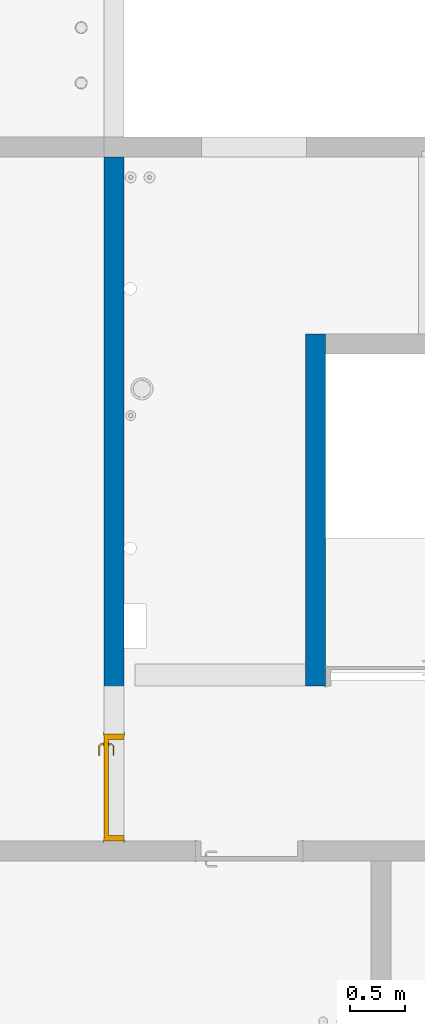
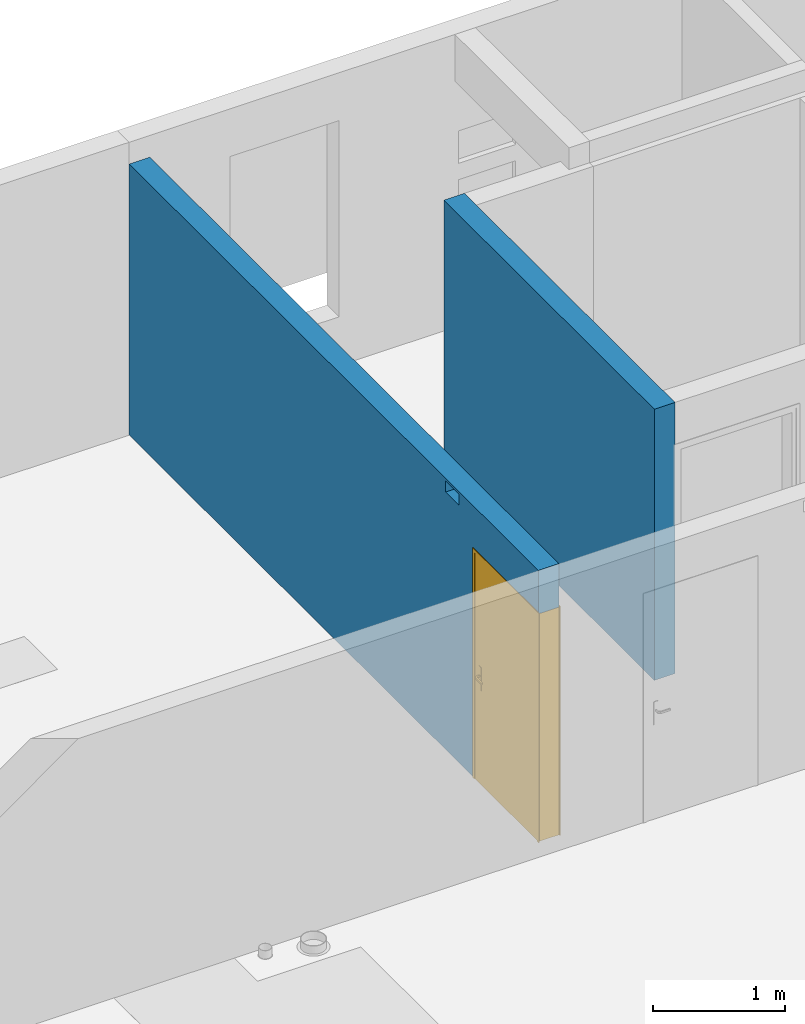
# One storey, part 10 of 28: 2 walls, 1 door, 3 openings.
"""IFC2X3 building model written with IfcOpenShell, lengths in centimetres."""

from ifc_helpers import new_model, entity, si_unit, converted_unit, derived_unit, direction, frame, frame_2d, origin, place, context, subcontext, project, spatial, rectangle, extrude, faceted_brep, source, transform, mapped, material, material_list, layer, layer_set, layer_usage, type_object, type_shapes, element, fill, save


model = new_model("IFC2X3")

# Units and contexts
model_context = context("Model", 3, precision=0.001, world=origin(), true_north=direction((6.12303176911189e-17, 1.0)))
body_context = subcontext(model_context, "Body", "Model", "MODEL_VIEW")
ifc_project = project(units=[si_unit("LENGTHUNIT", "METRE", prefix="CENTI"), si_unit("AREAUNIT", "SQUARE_METRE"), si_unit("VOLUMEUNIT", "CUBIC_METRE"), converted_unit("PLANEANGLEUNIT", "DEGREE", entity("IfcRatioMeasure", 0.0174532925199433), si_unit("PLANEANGLEUNIT", "RADIAN"), dimensions=[0, 0, 0, 0, 0, 0, 0]), si_unit("MASSUNIT", "GRAM", prefix="KILO"), derived_unit("MASSDENSITYUNIT", [(si_unit("MASSUNIT", "GRAM", prefix="KILO"), 1), (si_unit("LENGTHUNIT", "METRE"), -3)]), si_unit("TIMEUNIT", "SECOND"), si_unit("FREQUENCYUNIT", "HERTZ"), si_unit("THERMODYNAMICTEMPERATUREUNIT", "DEGREE_CELSIUS"), derived_unit("THERMALTRANSMITTANCEUNIT", [(si_unit("MASSUNIT", "GRAM", prefix="KILO"), 1), (si_unit("THERMODYNAMICTEMPERATUREUNIT", "KELVIN"), -1), (si_unit("TIMEUNIT", "SECOND"), -3)]), derived_unit("VOLUMETRICFLOWRATEUNIT", [(si_unit("LENGTHUNIT", "METRE"), 3), (si_unit("TIMEUNIT", "SECOND"), -1)]), si_unit("ELECTRICCURRENTUNIT", "AMPERE"), si_unit("ELECTRICVOLTAGEUNIT", "VOLT"), si_unit("POWERUNIT", "WATT"), si_unit("FORCEUNIT", "NEWTON"), si_unit("ILLUMINANCEUNIT", "LUX"), si_unit("LUMINOUSFLUXUNIT", "LUMEN"), si_unit("LUMINOUSINTENSITYUNIT", "CANDELA"), derived_unit("USERDEFINED", [(si_unit("MASSUNIT", "GRAM", prefix="KILO"), -1), (si_unit("LENGTHUNIT", "METRE"), -2), (si_unit("TIMEUNIT", "SECOND"), 3), (si_unit("LUMINOUSFLUXUNIT", "LUMEN"), 1)]), derived_unit("LINEARVELOCITYUNIT", [(si_unit("LENGTHUNIT", "METRE"), 1), (si_unit("TIMEUNIT", "SECOND"), -1)]), si_unit("PRESSUREUNIT", "PASCAL"), derived_unit("USERDEFINED", [(si_unit("LENGTHUNIT", "METRE"), -2), (si_unit("MASSUNIT", "GRAM", prefix="KILO"), 1), (si_unit("TIMEUNIT", "SECOND"), -2)])], contexts=[model_context])

# Site, building, storey
site_placement = place(None, origin())
site = spatial("IfcSite", under=ifc_project, at=site_placement, Name="Default", CompositionType="ELEMENT")
building_placement = place(site_placement, origin())
building = spatial("IfcBuilding", under=site, at=building_placement, Name="CAGE 03", CompositionType="ELEMENT")
storey_placement = place(building_placement, frame((0.0, 0.0, 1420.0)))
storey = spatial("IfcBuildingStorey", under=building, at=storey_placement, Name="R+5", CompositionType="ELEMENT", Elevation=1420.0)

# Wall, openings, door
ifc_material_1 = material(Name="Béton, C25/30")
ifc_layer_1 = layer(ifc_material_1, 18.0)
ifc_layer_set_1 = layer_set([ifc_layer_1], Name="Mur de base:Voile BA 18")
ifc_layer_usage_1 = layer_usage(ifc_layer_set_1, "AXIS2", "NEGATIVE", 9.0)
wall_type_1 = type_object("IfcWallType", Name="Mur de base:Voile BA 18", PredefinedType="STANDARD", material=ifc_layer_set_1)
wall_1_placement = place(storey_placement, frame((6840.36582014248, 5110.6606660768, 0.0), z_axis=(0.0, 0.0, 1.0), x_axis=(0.0, -1.0, 0.0)))
wall_1 = element("IfcWallStandardCase", 1, at=wall_1_placement, inside=storey, type_object=wall_type_1, material=ifc_layer_usage_1, Name="Mur de base:Voile BA 18", ObjectType="Mur de base:Voile BA 18", context=body_context, shape_type="SweptSolid", body=[
    extrude(rectangle(XDim=618.000000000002, YDim=17.9999999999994, at=frame_2d((309.000000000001, 8.97060203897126e-14), x_axis=(-1.0, 0.0))), origin(), (0.0, 0.0, 1.0), 250.0),
])
opening_1_placement = place(wall_1_placement, origin())
element("IfcOpeningElement", 2, at=opening_1_placement, cuts=wall_1, Name="Mur de base:Voile BA 18", ObjectType="Opening", context=body_context, shape_type="SweptSolid", body=[
    extrude(rectangle(XDim=10.0000000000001, YDim=19.9999999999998, at=frame_2d((1.08357767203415e-13, 4.33431068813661e-13), x_axis=(1.0, 0.0))), frame((488.0, -9.0, 242.500000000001), z_axis=(0.0, 1.0, 0.0), x_axis=(0.0, 0.0, -1.0)), (0.0, 0.0, 1.0), 17.9999999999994),
])
opening_2_placement = place(wall_1_placement, frame((618.0, 9.0, 0.0)))
opening_2 = element("IfcOpeningElement", 3, at=opening_2_placement, cuts=wall_1, Name="Int. Simple:HB93:1", ObjectType="Opening", context=body_context, shape_type="SweptSolid", body=[
    extrude(rectangle(XDim=210.000000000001, YDim=96.9999999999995, at=frame_2d((105.000000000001, 48.4999999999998), x_axis=(1.0, 0.0))), frame((0.0, 0.0, 0.0), z_axis=(0.0, -1.0, 0.0), x_axis=(0.0, 0.0, 1.0)), (0.0, 0.0, 1.0), 18.0),
])
ifc_material_2 = material(Name="Finition Peinture - Blanc satiné")
ifc_material_3 = material(Name="Bois - Panneau de porte")
ifc_material_4 = material(Name="Bois - Cadre de porte")
ifc_material_list_1 = material_list([ifc_material_2, ifc_material_3, ifc_material_4])
ifc_material_list_2 = material_list([ifc_material_2, ifc_material_3, ifc_material_4])
door_style = type_object("IfcDoorStyle", Name="HB93", ConstructionType="NOTDEFINED", OperationType="SINGLE_SWING_LEFT", ParameterTakesPrecedence=False, Sizeable=False, material=ifc_material_list_2)
shared_shape = source(origin(), body_context, "Body", "Brep", [
    faceted_brep([(10.5352761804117, -0.500000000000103, 86.6003983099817), (11.5000000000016, -0.500000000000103, 87.0), (11.5000000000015, -0.500000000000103, 108.0), (10.5352761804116, -0.500000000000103, 108.399601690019), (9.50000000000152, -0.500000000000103, 108.535898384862), (8.46472381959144, -0.500000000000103, 108.399601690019), (7.50000000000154, -0.500000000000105, 108.0), (7.50000000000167, -0.500000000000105, 87.0), (8.46472381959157, -0.500000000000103, 86.6003983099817), (9.50000000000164, -0.500000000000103, 86.464101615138), (10.5352761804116, 0.0, 108.399601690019), (11.5000000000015, 0.0, 108.0), (11.5000000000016, 0.0, 87.0), (10.5352761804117, 0.0, 86.6003983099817), (9.50000000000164, 0.0, 86.464101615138), (8.46472381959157, 0.0, 86.6003983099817), (7.50000000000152, 0.0, 87.0), (7.50000000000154, 0.0, 108.0), (8.46472381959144, 0.0, 108.399601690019), (9.50000000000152, 0.0, 108.535898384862)], [[[0, 1, 2, 3, 4, 5, 6, 7, 8, 9]], [[10, 11, 12, 13, 14, 15, 16, 17, 18, 19]], [[16, 15, 8, 7]], [[8, 15, 14, 9]], [[14, 13, 0, 9]], [[13, 12, 1, 0]], [[2, 1, 12, 11]], [[11, 10, 3, 2]], [[3, 10, 19, 4]], [[19, 18, 5, 4]], [[18, 17, 6, 5]], [[7, 6, 17, 16]]]),
    faceted_brep([(10.5352761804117, 4.0, 86.6003983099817), (11.5000000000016, 4.0, 87.0), (11.5000000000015, 4.0, 108.0), (10.5352761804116, 4.0, 108.399601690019), (9.50000000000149, 4.0, 108.535898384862), (8.46472381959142, 4.0, 108.399601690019), (7.50000000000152, 4.0, 108.0), (7.50000000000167, 4.0, 87.0), (8.46472381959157, 4.0, 86.6003983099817), (9.50000000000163, 4.0, 86.464101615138), (10.5352761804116, 4.49999999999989, 108.399601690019), (11.5000000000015, 4.4999999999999, 108.0), (11.5000000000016, 4.4999999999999, 87.0), (10.5352761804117, 4.49999999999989, 86.6003983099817), (9.50000000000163, 4.49999999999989, 86.464101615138), (8.46472381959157, 4.49999999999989, 86.6003983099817), (7.50000000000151, 4.49999999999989, 87.0), (7.50000000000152, 4.49999999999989, 108.0), (8.46472381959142, 4.49999999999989, 108.399601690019), (9.50000000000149, 4.49999999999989, 108.535898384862)], [[[0, 1, 2, 3, 4, 5, 6, 7, 8, 9]], [[10, 11, 12, 13, 14, 15, 16, 17, 18, 19]], [[11, 10, 3, 2]], [[3, 10, 19, 4]], [[19, 18, 5, 4]], [[18, 17, 6, 5]], [[7, 6, 17, 16]], [[16, 15, 8, 7]], [[8, 15, 14, 9]], [[14, 13, 0, 9]], [[13, 12, 1, 0]], [[2, 1, 12, 11]]]),
    faceted_brep([(9.29747013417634, -0.500000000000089, 100.778044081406), (9.70252986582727, -0.500000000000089, 100.778044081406), (10.1000000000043, -0.500000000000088, 100.699999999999), (10.1000000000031, -0.500000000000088, 99.3000000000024), (9.70252986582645, -0.500000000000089, 99.2219559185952), (9.29747013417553, -0.500000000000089, 99.221955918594), (8.89999999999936, -0.500000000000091, 99.2999999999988), (8.89999999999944, -0.500000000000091, 100.7), (8.89999999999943, -3.26509507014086, 100.7), (9.29747013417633, -3.10045754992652, 100.778044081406), (10.9023585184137, -4.70534593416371, 100.778044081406), (11.0701397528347, -4.30028620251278, 100.778044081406), (9.70252986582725, -2.93267631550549, 100.778044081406), (10.1000000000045, -2.76803879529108, 100.7), (10.1000000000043, -2.76803879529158, 99.3000000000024), (9.70252986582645, -2.93267631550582, 99.2219559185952), (11.0701397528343, -4.30028620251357, 99.2219559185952), (10.9023585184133, -4.70534593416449, 99.221955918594), (9.29747013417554, -3.10045754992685, 99.221955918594), (8.89999999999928, -3.26509507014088, 99.2999999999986), (10.7377209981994, -5.1028160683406, 100.7), (11.2347772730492, -3.90281606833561, 100.7), (11.2347772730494, -3.90281606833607, 99.3000000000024), (10.7377209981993, -5.10281606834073, 99.2999999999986), (19.5018640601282, -5.1028160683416, 99.2999999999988), (19.5018640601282, -4.70534593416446, 99.221955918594), (19.5018640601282, -4.30028620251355, 99.2219559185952), (19.5018640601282, -3.90281606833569, 99.3000000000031), (19.5018640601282, -3.90281606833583, 100.7), (19.5018640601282, -4.30028620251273, 100.778044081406), (19.5018640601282, -4.70534593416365, 100.778044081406), (19.5018640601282, -5.10281606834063, 100.699999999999), (14.7307697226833, -5.10281606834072, 100.7), (15.28600190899, -4.5028160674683, 100.78786867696), (15.3683206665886, -3.9028160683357, 100.7), (15.3683206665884, -3.90281606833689, 99.3000000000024), (15.2860018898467, -4.50281607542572, 99.2121313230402), (14.7307700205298, -5.10281606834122, 99.2999999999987)], [[[0, 1, 2, 3, 4, 5, 6, 7]], [[8, 9, 0, 7]], [[9, 10, 11, 12, 1, 0]], [[12, 13, 2, 1]], [[3, 2, 13, 14]], [[14, 15, 4, 3]], [[15, 16, 17, 18, 5, 4]], [[18, 19, 6, 5]], [[7, 6, 19, 8]], [[20, 10, 9, 8]], [[11, 21, 13, 12]], [[14, 13, 21, 22]], [[22, 16, 15, 14]], [[17, 23, 19, 18]], [[8, 19, 23, 20]], [[24, 25, 26, 27, 28, 29, 30, 31]], [[32, 30, 33]], [[31, 30, 32]], [[10, 20, 32]], [[33, 34, 11]], [[21, 11, 34]], [[34, 29, 28]], [[30, 29, 33]], [[29, 34, 33]], [[10, 32, 33]], [[10, 33, 11]], [[22, 21, 34, 28, 27, 35]], [[35, 26, 36]], [[37, 36, 25]], [[22, 35, 16]], [[35, 27, 26]], [[24, 37, 25]], [[23, 17, 37]], [[37, 17, 36]], [[17, 16, 36]], [[16, 35, 36]], [[25, 36, 26]], [[20, 23, 37, 24, 31, 32]]]),
    faceted_brep([(9.29747013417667, 4.49999999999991, 100.778044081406), (8.89999999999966, 4.49999999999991, 100.7), (8.89999999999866, 4.49999999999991, 99.2999999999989), (9.2974701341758, 4.49999999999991, 99.221955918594), (9.70252986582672, 4.49999999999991, 99.2219559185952), (10.1000000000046, 4.49999999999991, 99.3000000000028), (10.1000000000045, 4.49999999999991, 100.7), (9.70252986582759, 4.49999999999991, 100.778044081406), (10.1000000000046, 6.7485204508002, 99.3000000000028), (10.1000000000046, 6.74852045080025, 100.7), (9.70252986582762, 6.91315797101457, 100.778044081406), (11.0838906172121, 8.29451872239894, 100.778044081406), (10.9161093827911, 8.69957845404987, 100.778044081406), (9.29747013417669, 7.0809392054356, 100.778044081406), (8.89999999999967, 7.24557672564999, 100.7), (8.89999999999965, 7.24557672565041, 99.2999999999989), (9.29747013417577, 7.08093920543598, 99.221955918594), (10.9161093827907, 8.69957845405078, 99.221955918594), (11.0838906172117, 8.29451872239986, 99.2219559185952), (9.7025298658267, 6.91315797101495, 99.2219559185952), (11.2485281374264, 7.89704858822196, 99.3000000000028), (11.2485281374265, 7.89704858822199, 100.7), (10.7514718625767, 9.0970485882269, 100.7), (10.751471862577, 9.0970485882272, 99.2999999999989), (19.504578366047, 7.89704858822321, 99.3000000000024), (19.504578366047, 8.29451872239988, 99.2219559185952), (19.504578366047, 8.6995784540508, 99.221955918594), (19.504578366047, 9.09704858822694, 99.2999999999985), (19.504578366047, 9.09704858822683, 100.7), (19.504578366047, 8.69957845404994, 100.778044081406), (19.504578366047, 8.29451872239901, 100.778044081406), (19.504578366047, 7.89704858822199, 100.7), (15.3765520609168, 7.89704858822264, 99.3000000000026), (15.3765532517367, 7.89704858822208, 100.7), (15.294234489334, 8.49704858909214, 100.78786867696), (14.7445205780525, 9.09704858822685, 100.7), (14.7445204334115, 9.09704858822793, 99.2999999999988), (15.2942345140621, 8.49704858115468, 99.2121313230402)], [[[0, 1, 2, 3, 4, 5, 6, 7]], [[6, 5, 8, 9]], [[9, 10, 7, 6]], [[10, 11, 12, 13, 0, 7]], [[13, 14, 1, 0]], [[2, 1, 14, 15]], [[15, 16, 3, 2]], [[16, 17, 18, 19, 4, 3]], [[19, 8, 5, 4]], [[9, 8, 20, 21]], [[21, 11, 10, 9]], [[12, 22, 14, 13]], [[15, 14, 22, 23]], [[23, 17, 16, 15]], [[18, 20, 8, 19]], [[24, 25, 26, 27, 28, 29, 30, 31]], [[21, 20, 32, 24, 31, 33]], [[33, 30, 34]], [[35, 34, 29]], [[21, 33, 11]], [[33, 31, 30]], [[28, 35, 29]], [[22, 12, 35]], [[35, 12, 34]], [[12, 11, 34]], [[11, 33, 34]], [[29, 34, 30]], [[22, 35, 28, 27, 36, 23]], [[36, 26, 37]], [[27, 26, 36]], [[17, 23, 36]], [[37, 32, 18]], [[20, 18, 32]], [[32, 25, 24]], [[26, 25, 37]], [[25, 32, 37]], [[17, 36, 37]], [[17, 37, 18]]]),
    faceted_brep([(3.50000000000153, 4.0, 206.5), (93.5000000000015, 4.0, 206.5), (93.5000000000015, 4.0, 0.0), (3.50000000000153, 4.0, 0.0), (3.50000000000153, 0.0, 206.5), (3.50000000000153, 0.0, 0.0), (93.5000000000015, 0.0, 0.0), (93.5000000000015, 0.0, 206.5)], [[[0, 1, 2, 3]], [[4, 5, 6, 7]], [[1, 0, 4, 7]], [[2, 1, 7, 6]], [[3, 2, 6, 5]], [[0, 3, 5, 4]]]),
    faceted_brep([(0.0, 0.0, 0.0), (0.0, 18.0, 0.0), (5.0, 18.0, 0.0), (5.0, 4.0, 0.0), (3.50000000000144, 4.0, 0.0), (3.50000000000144, 0.0, 0.0), (0.0, 0.0, 210.0), (0.0, 18.0, 210.0), (97.0, 18.0, 210.0), (97.0, 18.0, 0.0), (92.0, 18.0, 0.0), (92.0, 18.0, 205.0), (5.0, 18.0, 205.0), (5.0, 4.0, 205.0), (92.0, 4.0, 205.0), (92.0, 4.0, 0.0), (93.4999999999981, 4.0, 0.0), (93.4999999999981, 4.0, 206.5), (3.50000000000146, 4.0, 206.5), (3.50000000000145, 0.0, 206.5), (93.4999999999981, 0.0, 206.5), (93.4999999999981, 0.0, 0.0), (97.0, 0.0, 0.0), (97.0, 0.0, 210.0)], [[[0, 1, 2, 3, 4, 5]], [[1, 0, 6, 7]], [[2, 1, 7, 8, 9, 10, 11, 12]], [[3, 2, 12, 13]], [[4, 3, 13, 14, 15, 16, 17, 18]], [[5, 4, 18, 19]], [[0, 5, 19, 20, 21, 22, 23, 6]], [[8, 23, 22, 9]], [[22, 21, 16, 15, 10, 9]], [[14, 11, 10, 15]], [[20, 17, 16, 21]], [[7, 6, 23, 8]], [[13, 12, 11, 14]], [[19, 18, 17, 20]]]),
    faceted_brep([(1.5, 18.0, 0.0), (-1.49999999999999, 18.0, 0.0), (-1.49999999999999, 18.5000000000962, 0.0), (1.5, 18.5000000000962, 0.0), (1.5, 18.0, 208.500000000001), (95.4999999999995, 18.0, 208.500000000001), (95.4999999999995, 18.0, 0.0), (98.4999999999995, 18.0, 0.0), (98.4999999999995, 18.0, 211.500000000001), (-1.49999999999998, 18.0, 211.500000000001), (-1.49999999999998, 18.5000000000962, 211.500000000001), (98.4999999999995, 18.5000000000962, 211.500000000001), (98.4999999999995, 18.5000000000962, 0.0), (95.4999999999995, 18.5000000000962, 0.0), (95.4999999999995, 18.5000000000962, 208.500000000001), (1.50000000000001, 18.5000000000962, 208.500000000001)], [[[0, 1, 2, 3]], [[1, 0, 4, 5, 6, 7, 8, 9]], [[2, 1, 9, 10]], [[3, 2, 10, 11, 12, 13, 14, 15]], [[0, 3, 15, 4]], [[6, 13, 12, 7]], [[5, 14, 13, 6]], [[11, 8, 7, 12]], [[10, 9, 8, 11]], [[4, 15, 14, 5]]]),
    faceted_brep([(-1.49999999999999, -0.5, 0.0), (1.5, -0.5, 0.0), (1.5, -0.5, 208.500000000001), (95.4999999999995, -0.5, 208.500000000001), (95.4999999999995, -0.5, 0.0), (98.4999999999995, -0.5, 0.0), (98.4999999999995, -0.5, 211.500000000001), (-1.49999999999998, -0.5, 211.500000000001), (-1.49999999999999, 0.0, 0.0), (-1.49999999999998, 0.0, 211.500000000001), (1.5, 0.0, 0.0), (98.4999999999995, 0.0, 211.500000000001), (98.4999999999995, 0.0, 0.0), (95.4999999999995, 0.0, 0.0), (95.4999999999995, 0.0, 208.500000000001), (1.50000000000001, 0.0, 208.500000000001)], [[[0, 1, 2, 3, 4, 5, 6, 7]], [[8, 0, 7, 9]], [[10, 8, 9, 11, 12, 13, 14, 15]], [[1, 10, 15, 2]], [[3, 14, 13, 4]], [[11, 6, 5, 12]], [[9, 7, 6, 11]], [[2, 15, 14, 3]], [[4, 13, 12, 5]], [[1, 0, 8, 10]]]),
])
type_shapes(door_style, [shared_shape])
door_placement = place(opening_2_placement, frame((-97.0, -18.0, 0.0)))
door = element("IfcDoor", 4, at=door_placement, inside=storey, type_object=door_style, material=ifc_material_list_1, Name="Int. Simple:HB93", ObjectType="HB93", OverallHeight=210.000000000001, OverallWidth=96.9999999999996, context=body_context, shape_type="MappedRepresentation", body=[
    mapped(shared_shape, transform((0.0, 0.0, 0.0), scale=1.0)),
])
fill(opening_2, door)

# Wall, opening
ifc_material_5 = material(Name="Béton, panneaux préfa 30/37")
ifc_layer_2 = layer(ifc_material_5, 5.5)
ifc_layer_3 = layer(ifc_material_1, 7.0)
ifc_layer_4 = layer(ifc_material_5, 5.5)
ifc_layer_set_2 = layer_set([ifc_layer_2, ifc_layer_3, ifc_layer_4], Name="Mur de base:premur 18")
ifc_layer_usage_2 = layer_usage(ifc_layer_set_2, "AXIS2", "NEGATIVE", 9.0)
wall_type_2 = type_object("IfcWallType", Name="Mur de base:premur 18", PredefinedType="NOTDEFINED")
wall_2_placement = place(storey_placement, frame((7022.36582014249, 4632.6606660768, 0.0), z_axis=(0.0, 0.0, 1.0), x_axis=(0.0, 1.0, 0.0)))
wall_2 = element("IfcWallStandardCase", 5, at=wall_2_placement, inside=storey, type_object=wall_type_2, material=ifc_layer_usage_2, Name="Mur de base:premur 18", ObjectType="Mur de base:premur 18", context=body_context, shape_type="SweptSolid", body=[
    extrude(rectangle(XDim=317.999999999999, YDim=17.9999999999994, at=frame_2d((158.999999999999, -1.68753899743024e-13), x_axis=(-1.0, 0.0))), origin(), (0.0, 0.0, 1.0), 250.0),
])
opening_3_placement = place(wall_2_placement, origin())
element("IfcOpeningElement", 6, at=opening_3_placement, cuts=wall_2, Name="Mur de base:premur 18", ObjectType="Opening", context=body_context, shape_type="SweptSolid", body=[
    extrude(rectangle(XDim=210.000000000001, YDim=18.0000000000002, at=frame_2d((4.33431068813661e-13, -1.06581410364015e-13), x_axis=(0.0, 1.0))), frame((9.0, -116.0, 105.0), z_axis=(0.0, 1.0, 0.0), x_axis=(-1.0, 0.0, 0.0)), (0.0, 0.0, 1.0), 106.999999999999),
])

save(model, "model.ifc")
